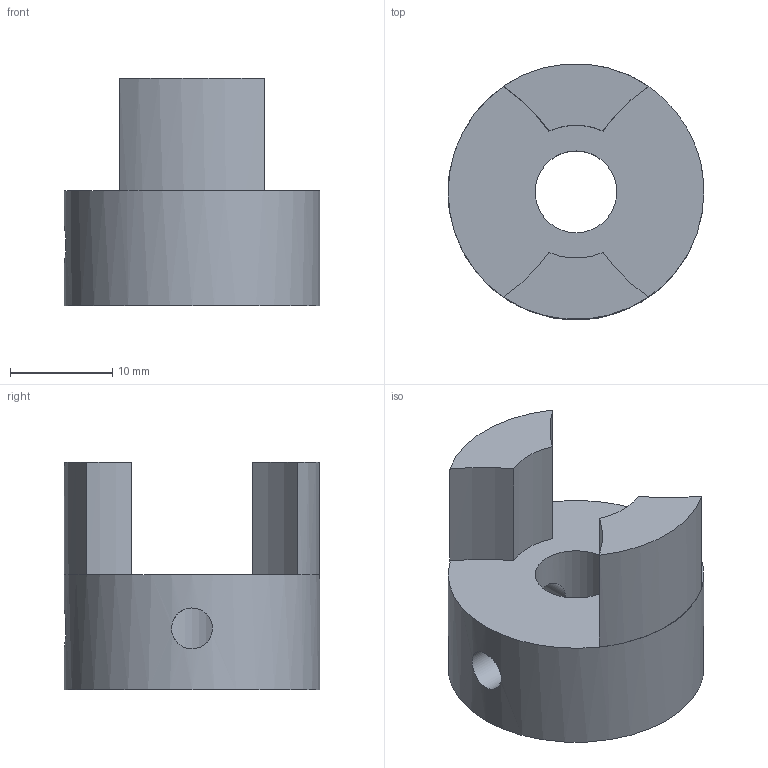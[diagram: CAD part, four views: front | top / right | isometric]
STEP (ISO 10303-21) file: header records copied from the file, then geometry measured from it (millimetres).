
FILE_DESCRIPTION(/* description */ ('Alibre Inc.'),/* implementation_level */ '2;1');
FILE_NAME(/* name */ 'export0',/* time_stamp */ '2013-07-10T11:41:49-06:00',/* author */ (''),/* organization */ (''),/* preprocessor_version */ 'ST-DEVELOPER v14',/* originating_system */ 'Alibre',/* authorisation */ '');
FILE_SCHEMA (('ALIBRE_SCHEMA','CONFIG_CONTROL_DESIGN'));
Length unit declared in the file: centimetre
Products named in the file (1): ID_1
Bounding box: 25 x 25 x 22.25 mm (x, y, z)
Volume: 6046 mm3; surface area: 2941.2 mm2
Topology: 1 solids, 1 shells, 19 faces, 51 edges, 34 vertices
Faces by surface type: cylinder 8, plane 7, bspline 4
Full cylindrical faces by diameter (mm): 4 x2, 8 x1, 25 x1
Entity records: 2150 total; most frequent: CARTESIAN_POINT 603, REFERENCEDEPENDENTUV 170, DIRECTION 111, CONSTRAINTPAIRUV 101, ORIENTED_EDGE 88, REFERENCEPOINTUV 61, VECTOR 53, ENTITYHEADERPROPERTIES 49
